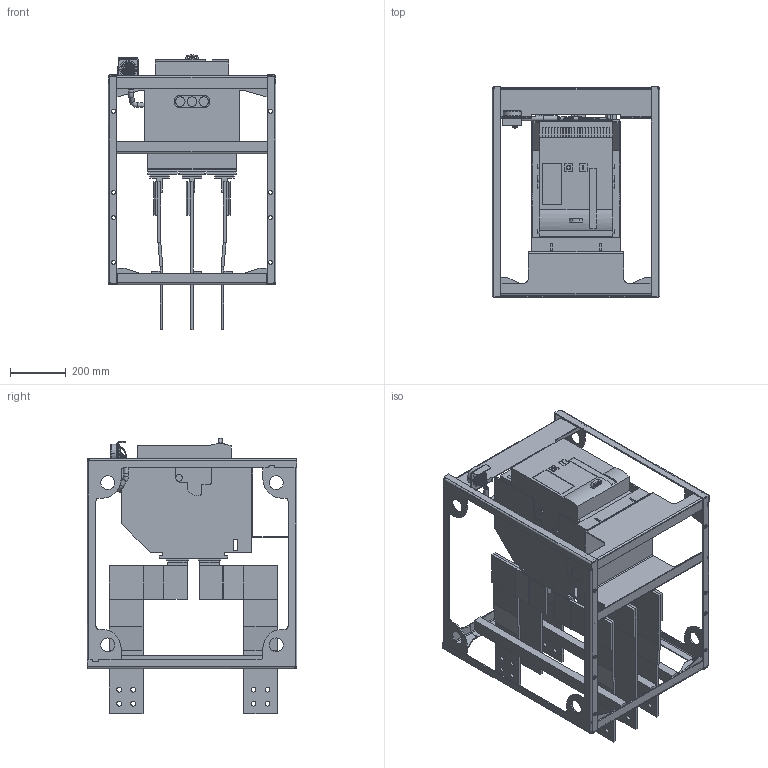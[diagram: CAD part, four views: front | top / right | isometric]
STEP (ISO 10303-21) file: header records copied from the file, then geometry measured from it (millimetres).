
FILE_DESCRIPTION (( 'STEP AP214' ), '1' );
FILE_NAME ('Ýëåêòðîí Ý16Â Ïðî_defeature++.STEP', '2022-06-07T07:03:05', ( '' ), ( '' ), 'SwSTEP 2.0', 'SolidWorks 2018', '' );
FILE_SCHEMA (( 'AUTOMOTIVE_DESIGN' ));
Length unit declared in the file: millimetre
Products named in the file (1): Ýëåêòðîí Ý16Â Ïðî_defeature++
Bounding box: 600 x 750.01 x 982.5 mm (x, y, z)
Volume: 46104883.1 mm3; surface area: 5153339.4 mm2
Topology: 73 solids, 73 shells, 4531 faces, 11964 edges, 7708 vertices
Faces by surface type: plane 3703, cylinder 667, torus 89, bspline 68, cone 4
Full cylindrical faces by diameter (mm): 2.4 x14, 4.8 x1, 6.831 x1, 8.5 x4, 8.653 x1, 8.898 x3, 10.16 x1, 10.5 x2, 11.52 x1, 12.5 x4, 12.736 x1, 13 x1, 13.022 x1, 13.576 x6, 14 x28, 17 x25, 18.176 x1, 19.176 x1, 24 x2, 34 x3, 50 x8
Entity records: 152046 total; most frequent: CARTESIAN_POINT 33036, ORIENTED_EDGE 23430, DIRECTION 21953, EDGE_CURVE 11715, LINE 10141, VECTOR 10141, VERTEX_POINT 7677, AXIS2_PLACEMENT_3D 5906
